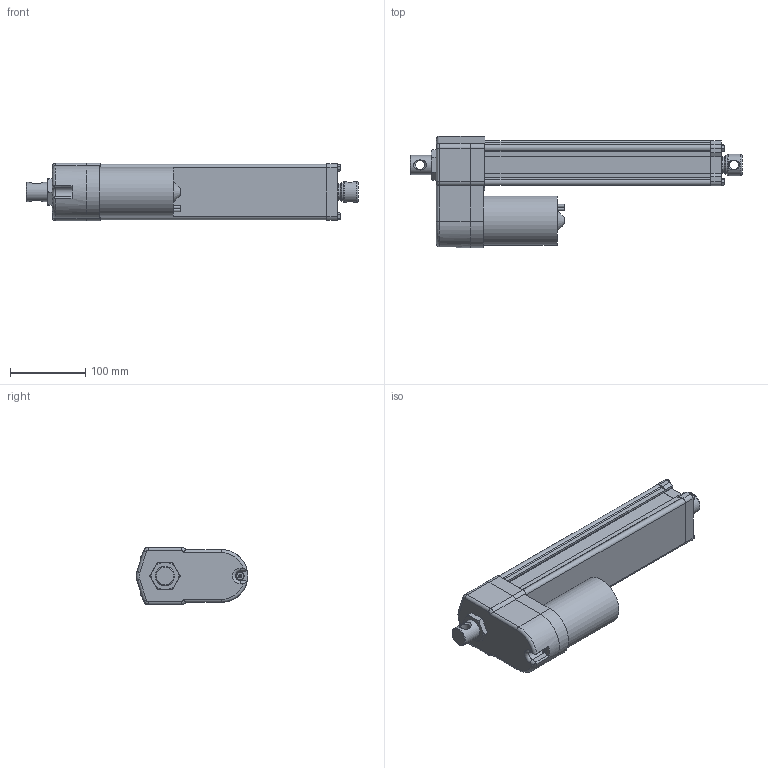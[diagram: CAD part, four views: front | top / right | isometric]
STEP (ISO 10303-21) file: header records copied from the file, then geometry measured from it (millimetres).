
FILE_DESCRIPTION( ( 'STEP AP203' ), '1' );
FILE_NAME( 'p:/temp/worker_332/temp/exporttempdir_432_663_wOjDe/format_0/DA12-05A65M25M0N-AMM.stp', '2020-04-12T13:17:57', ( 'License CC BY-ND 4.0' ), ( 'CADENAS' ), ' ', 'PARTsolutions', ' ' );
FILE_SCHEMA( ( 'CONFIG_CONTROL_DESIGN' ) );
Length unit declared in the file: millimetre
Products named in the file (8): DA12-05A65M25M0N-AMM; _ELECTRAK-LA14-DA12-05A65MM0N-25M-EU-REAR; _Electrak-10-EU-RA-D602700; _D602768eu; _ELECTRAK-LA14-DA12--MOTOR; _DA12-05A65M25M0NAMMtube; _ELECTRAK-LA14-DA12--25-PLATE; _ELECTRAK-LA14-DA12--2505A65MNM-ROD
Assembly tree (7 placements, depth 2):
  DA12-05A65M25M0N-AMM
    _ELECTRAK-LA14-DA12-05A65MM0N-25M-EU-REAR
    _Electrak-10-EU-RA-D602700
    _D602768eu
    _ELECTRAK-LA14-DA12--MOTOR
    _DA12-05A65M25M0NAMMtube
    _ELECTRAK-LA14-DA12--25-PLATE
    _ELECTRAK-LA14-DA12--2505A65MNM-ROD
Bounding box: 441.05 x 148 x 76.2 mm (x, y, z)
Volume: 1521170.6 mm3; surface area: 343663.4 mm2
Topology: 7 solids, 8 shells, 378 faces, 942 edges, 610 vertices
Faces by surface type: plane 183, cylinder 131, cone 46, torus 14, bspline 4
Full cylindrical faces by diameter (mm): 4 x2, 4.126 x1, 4.8 x6, 5 x5, 5.6 x4, 7.878 x4, 9.398 x1, 12.2 x2, 16 x1, 21.8 x1, 25.2 x1, 25.4 x1, 26.24 x1, 28.5 x1, 28.6 x2, 47.625 x1, 65.3 x1
Entity records: 11834 total; most frequent: CARTESIAN_POINT 2729, DIRECTION 1869, ORIENTED_EDGE 1744, EDGE_CURVE 872, AXIS2_PLACEMENT_3D 702, VERTEX_POINT 602, EDGE_LOOP 485, LINE 465
